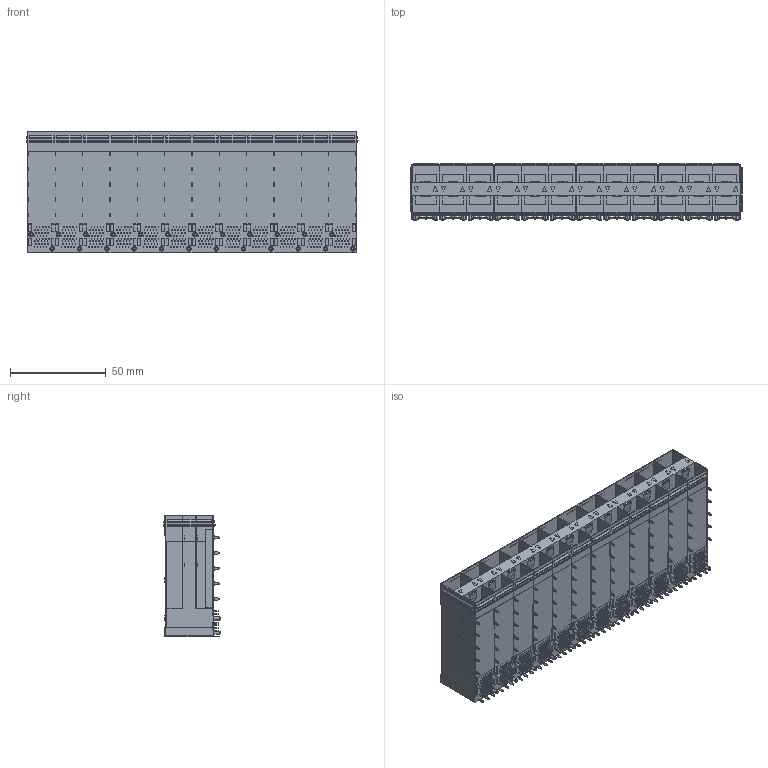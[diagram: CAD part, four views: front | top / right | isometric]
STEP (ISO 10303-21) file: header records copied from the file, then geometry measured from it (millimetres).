
FILE_DESCRIPTION (( 'STEP AP214' ), '1' );
FILE_NAME ('SFP+ 2X12 无月牙 外灯(下上) 3D.STEP', '2025-09-02T08:41:34', ( '桑三博客' ), ( 'Www.SangSan.Cn' ), 'SwSTEP 2.0', 'SolidWorks 2018', '' );
FILE_SCHEMA (( 'AUTOMOTIVE_DESIGN' ));
Length unit declared in the file: millimetre
Products named in the file (1): SFP+ 2X12 拸堎挴 俋腑(狟奻)  3D
Bounding box: 173.06 x 29.78 x 63.5 mm (x, y, z)
Volume: 139561.1 mm3; surface area: 96394.8 mm2
Topology: 1 solids, 1 shells, 6145 faces, 16935 edges, 11474 vertices
Faces by surface type: plane 4579, cylinder 1468, cone 96, sphere 2
Entity records: 195277 total; most frequent: CARTESIAN_POINT 34553, ORIENTED_EDGE 33866, DIRECTION 32261, EDGE_CURVE 16933, VECTOR 13897, LINE 13897, VERTEX_POINT 11474, AXIS2_PLACEMENT_3D 9182
